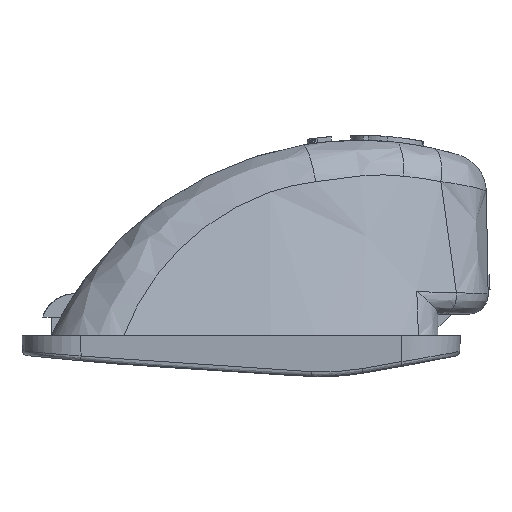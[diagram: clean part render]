
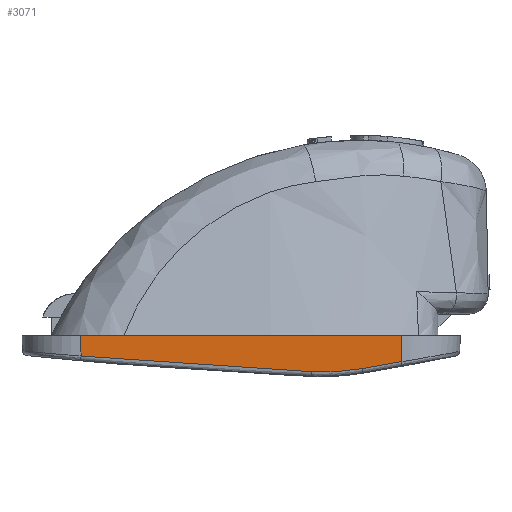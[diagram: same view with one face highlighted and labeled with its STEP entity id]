
A CAD part, left-side view. The second image highlights one B-rep face of the part: STEP entity #3071.
In plain terms, the highlighted planar face has unit normal (-0.999, 0, -0.035).
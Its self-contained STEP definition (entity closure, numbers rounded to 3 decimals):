
#5 = CARTESIAN_POINT ( 'NONE',  ( -51.898, -37.58, -2.931 ) ) ;
#167 = EDGE_CURVE ( 'NONE', #12575, #4832, #15100, .T. ) ;
#325 = CARTESIAN_POINT ( 'NONE',  ( -52., -45., 0. ) ) ;
#525 = VERTEX_POINT ( 'NONE', #12297 ) ;
#1382 = LINE ( 'NONE', #10635, #12586 ) ;
#1451 = VECTOR ( 'NONE', #15279, 1000. ) ;
#1772 = VERTEX_POINT ( 'NONE', #5988 ) ;
#2321 = CARTESIAN_POINT ( 'NONE',  ( -51.906, -38.91, -2.687 ) ) ;
#2674 = CARTESIAN_POINT ( 'NONE',  ( -51.901, -13.952, -2.829 ) ) ;
#2746 = CARTESIAN_POINT ( 'NONE',  ( -51.872, -33.207, -3.679 ) ) ;
#3071 = ADVANCED_FACE ( 'NONE', ( #4434 ), #8724, .T. ) ;
#3139 = DIRECTION ( 'NONE',  ( -0.999, 0., -0.035 ) ) ;
#3743 = DIRECTION ( 'NONE',  ( -0.035, -0.035, 0.999 ) ) ;
#4434 = FACE_OUTER_BOUND ( 'NONE', #6787, .T. ) ;
#4832 = VERTEX_POINT ( 'NONE', #17141 ) ;
#5092 = DIRECTION ( 'NONE',  ( 0., 1., 0. ) ) ;
#5236 = EDGE_CURVE ( 'NONE', #17175, #525, #7909, .T. ) ;
#5932 = ORIENTED_EDGE ( 'NONE', *, *, #167, .T. ) ;
#5988 = CARTESIAN_POINT ( 'NONE',  ( -52., -5.996, 0. ) ) ;
#6787 = EDGE_LOOP ( 'NONE', ( #15209, #17205, #5932, #15698, #7540, #15140 ) ) ;
#6847 = CARTESIAN_POINT ( 'NONE',  ( -51.87, -29.758, -3.71 ) ) ;
#7189 = EDGE_CURVE ( 'NONE', #4832, #17175, #8900, .T. ) ;
#7540 = ORIENTED_EDGE ( 'NONE', *, *, #5236, .T. ) ;
#7669 = CARTESIAN_POINT ( 'NONE',  ( -51.926, -6.07, -2.108 ) ) ;
#7909 = LINE ( 'NONE', #2321, #11168 ) ;
#8403 = CARTESIAN_POINT ( 'NONE',  ( -51.889, -36.248, -3.165 ) ) ;
#8724 = PLANE ( 'NONE',  #8885 ) ;
#8885 = AXIS2_PLACEMENT_3D ( 'NONE', #325, #3139, #12971 ) ;
#8900 = B_SPLINE_CURVE_WITH_KNOTS ( 'NONE', 3,
 ( #16820, #8403, #5, #9787 ),
 .UNSPECIFIED., .F., .F.,
 ( 4, 4 ),
 ( 0., 1. ),
 .UNSPECIFIED. ) ;
#9727 = CARTESIAN_POINT ( 'NONE',  ( -51.868, -31.488, -3.786 ) ) ;
#9783 = LINE ( 'NONE', #18132, #1451 ) ;
#9787 = CARTESIAN_POINT ( 'NONE',  ( -51.906, -38.91, -2.687 ) ) ;
#10635 = CARTESIAN_POINT ( 'NONE',  ( -52., -45., 0. ) ) ;
#11142 = CARTESIAN_POINT ( 'NONE',  ( -51.87, -29.758, -3.71 ) ) ;
#11168 = VECTOR ( 'NONE', #3743, 1000. ) ;
#12297 = CARTESIAN_POINT ( 'NONE',  ( -52., -39.004, 0. ) ) ;
#12487 = CARTESIAN_POINT ( 'NONE',  ( -51.926, -6.07, -2.108 ) ) ;
#12570 = CARTESIAN_POINT ( 'NONE',  ( -51.882, -34.914, -3.391 ) ) ;
#12575 = VERTEX_POINT ( 'NONE', #13121 ) ;
#12586 = VECTOR ( 'NONE', #5092, 1000. ) ;
#12819 = EDGE_CURVE ( 'NONE', #12575, #13666, #14963, .T. ) ;
#12971 = DIRECTION ( 'NONE',  ( -0.035, 0., 0.999 ) ) ;
#13121 = CARTESIAN_POINT ( 'NONE',  ( -51.87, -29.758, -3.71 ) ) ;
#13666 = VERTEX_POINT ( 'NONE', #7669 ) ;
#13889 = EDGE_CURVE ( 'NONE', #13666, #1772, #9783, .T. ) ;
#14963 = B_SPLINE_CURVE_WITH_KNOTS ( 'NONE', 3,
 ( #6847, #15281, #2674, #12487 ),
 .UNSPECIFIED., .F., .F.,
 ( 4, 4 ),
 ( 0., 1. ),
 .UNSPECIFIED. ) ;
#15100 = B_SPLINE_CURVE_WITH_KNOTS ( 'NONE', 3,
 ( #11142, #9727, #2746, #12570 ),
 .UNSPECIFIED., .F., .F.,
 ( 4, 4 ),
 ( 0., 1. ),
 .UNSPECIFIED. ) ;
#15140 = ORIENTED_EDGE ( 'NONE', *, *, #17640, .T. ) ;
#15209 = ORIENTED_EDGE ( 'NONE', *, *, #13889, .F. ) ;
#15279 = DIRECTION ( 'NONE',  ( -0.035, 0.035, 0.999 ) ) ;
#15281 = CARTESIAN_POINT ( 'NONE',  ( -51.883, -21.851, -3.364 ) ) ;
#15698 = ORIENTED_EDGE ( 'NONE', *, *, #7189, .T. ) ;
#16820 = CARTESIAN_POINT ( 'NONE',  ( -51.882, -34.914, -3.391 ) ) ;
#17141 = CARTESIAN_POINT ( 'NONE',  ( -51.882, -34.914, -3.391 ) ) ;
#17175 = VERTEX_POINT ( 'NONE', #17946 ) ;
#17205 = ORIENTED_EDGE ( 'NONE', *, *, #12819, .F. ) ;
#17640 = EDGE_CURVE ( 'NONE', #525, #1772, #1382, .T. ) ;
#17946 = CARTESIAN_POINT ( 'NONE',  ( -51.906, -38.91, -2.687 ) ) ;
#18132 = CARTESIAN_POINT ( 'NONE',  ( -51.953, -6.044, -1.359 ) ) ;
